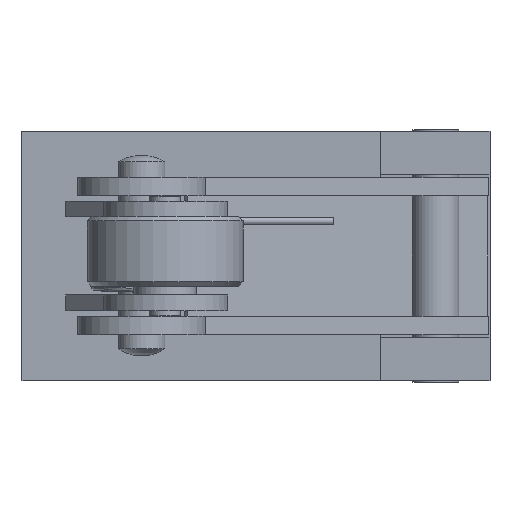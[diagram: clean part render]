
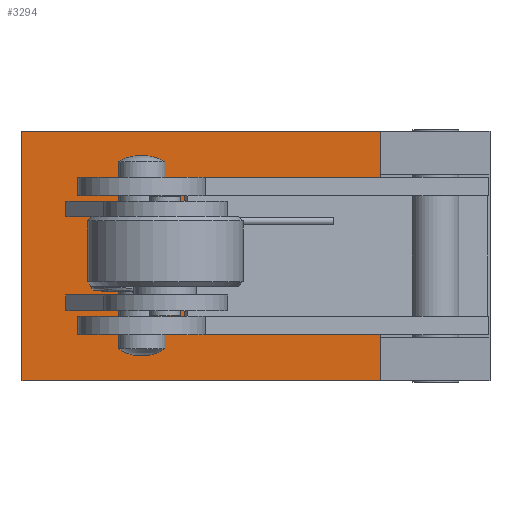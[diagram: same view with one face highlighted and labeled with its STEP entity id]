
A CAD part, left-side view. The second image highlights one B-rep face of the part: STEP entity #3294.
In plain terms, the highlighted planar face has unit normal (-1, 0, 0).
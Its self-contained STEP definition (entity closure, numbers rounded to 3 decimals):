
#174=LINE('',#5660,#380);
#175=LINE('',#5663,#381);
#176=LINE('',#5665,#382);
#177=LINE('',#5667,#383);
#380=VECTOR('',#4834,1000.);
#381=VECTOR('',#4835,1000.);
#382=VECTOR('',#4836,1000.);
#383=VECTOR('',#4837,1000.);
#592=PLANE('',#4485);
#761=ORIENTED_EDGE('',*,*,#1648,.T.);
#762=ORIENTED_EDGE('',*,*,#1649,.T.);
#763=ORIENTED_EDGE('',*,*,#1650,.F.);
#764=ORIENTED_EDGE('',*,*,#1651,.F.);
#765=ORIENTED_EDGE('',*,*,#1652,.T.);
#1648=EDGE_CURVE('',#2096,#2096,#2430,.F.);
#1649=EDGE_CURVE('',#2097,#2098,#174,.T.);
#1650=EDGE_CURVE('',#2099,#2098,#175,.T.);
#1651=EDGE_CURVE('',#2100,#2099,#176,.T.);
#1652=EDGE_CURVE('',#2100,#2097,#177,.T.);
#2096=VERTEX_POINT('',#5659);
#2097=VERTEX_POINT('',#5661);
#2098=VERTEX_POINT('',#5662);
#2099=VERTEX_POINT('',#5664);
#2100=VERTEX_POINT('',#5666);
#2430=CIRCLE('',#4486,4.088);
#2581=EDGE_LOOP('',(#761));
#2582=EDGE_LOOP('',(#762,#763,#764,#765));
#2933=FACE_BOUND('',#2581,.T.);
#2934=FACE_BOUND('',#2582,.T.);
#3294=ADVANCED_FACE('',(#2933,#2934),#592,.T.);
#4485=AXIS2_PLACEMENT_3D('',#5657,#4830,#4831);
#4486=AXIS2_PLACEMENT_3D('',#5658,#4832,#4833);
#4830=DIRECTION('',(-1.,0.,0.));
#4831=DIRECTION('',(0.,-1.,0.));
#4832=DIRECTION('',(-1.,0.,0.));
#4833=DIRECTION('',(0.,0.,1.));
#4834=DIRECTION('',(0.,0.,1.));
#4835=DIRECTION('',(0.,-1.,0.));
#4836=DIRECTION('',(0.,0.,1.));
#4837=DIRECTION('',(0.,-1.,0.));
#5657=CARTESIAN_POINT('',(-42.5,15.,-8.));
#5658=CARTESIAN_POINT('',(-42.5,0.,0.));
#5659=CARTESIAN_POINT('',(-42.5,0.,4.088));
#5660=CARTESIAN_POINT('',(-42.5,-8.,-8.));
#5661=CARTESIAN_POINT('',(-42.5,-8.,-8.));
#5662=CARTESIAN_POINT('',(-42.5,-8.,8.));
#5663=CARTESIAN_POINT('',(-42.5,15.,8.));
#5664=CARTESIAN_POINT('',(-42.5,15.,8.));
#5665=CARTESIAN_POINT('',(-42.5,15.,-8.));
#5666=CARTESIAN_POINT('',(-42.5,15.,-8.));
#5667=CARTESIAN_POINT('',(-42.5,15.,-8.));
